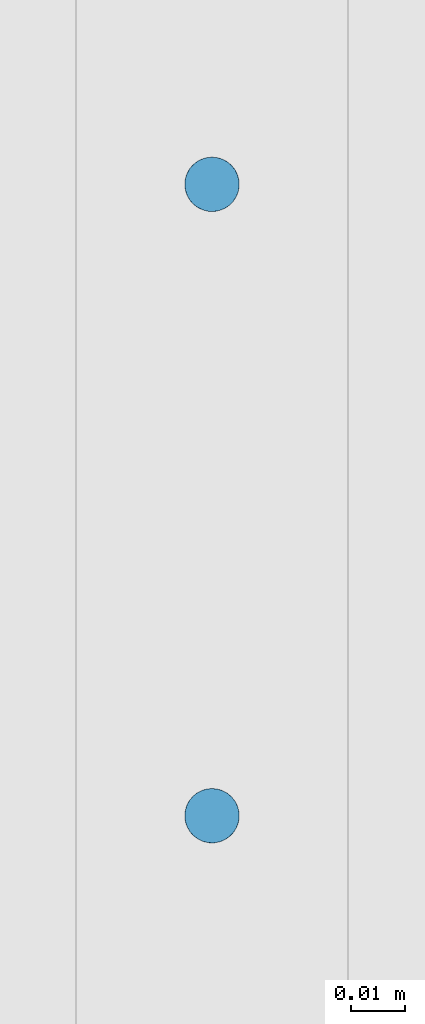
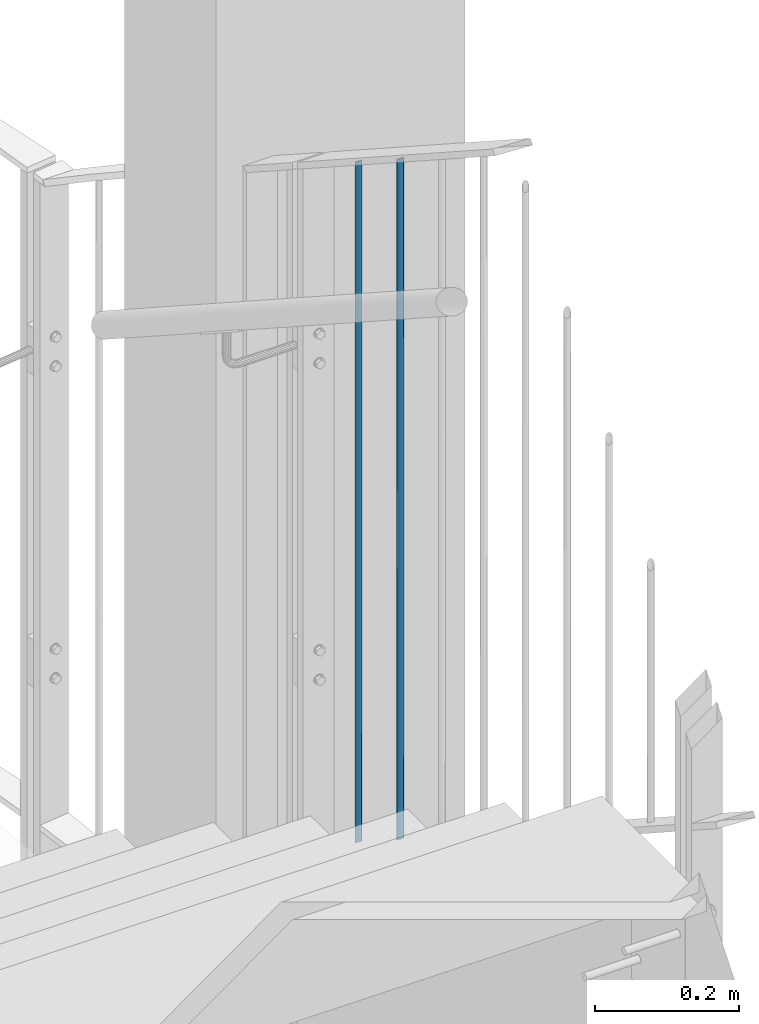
# One storey, part 83 of 296: 2 columns.
"""IFC2X3 building model written with IfcOpenShell, lengths in millimetres."""

from ifc_helpers import new_model, entity, si_unit, converted_unit, frame, origin, origin_with_axes, origin_2d, place, context, project, spatial, circle, extrude, clip, halfspace, material, element, save


model = new_model("IFC2X3")

# Units and contexts
model_context = context("Model", 3, precision=1e-09, world=origin_with_axes())
ifc_project = project(units=[si_unit("LENGTHUNIT", "METRE", prefix="MILLI"), si_unit("AREAUNIT", "SQUARE_METRE"), si_unit("VOLUMEUNIT", "CUBIC_METRE"), converted_unit("PLANEANGLEUNIT", "DEGREE", entity("IfcPlaneAngleMeasure", 0.01745329), si_unit("PLANEANGLEUNIT", "RADIAN"), dimensions=[0, 0, 0, 0, 0, 0, 0])], contexts=[model_context])

# Site, building, storey
site_placement = place(None, origin_with_axes())
site = spatial("IfcSite", under=ifc_project, at=site_placement, Name="TZD-S?d | Treppenhausgel?nder", CompositionType="ELEMENT")
building_placement = place(site_placement, origin_with_axes())
building = spatial("IfcBuilding", under=site, at=building_placement, Name="Struktur 1", CompositionType="ELEMENT")
storey_placement = place(building_placement, origin_with_axes())
storey = spatial("IfcBuildingStorey", under=building, at=storey_placement, Name="Default Storey", CompositionType="ELEMENT", Elevation=0.0)

# Columns
ifc_material = material(Name="S235JR")
column_1_placement = place(None, frame((5894.999, -689.7222223, 7881.22867776), z_axis=(0.0, 0.0, -1.0), x_axis=(0.0, 1.0, 0.0)))
element("IfcColumn", 1, at=column_1_placement, inside=storey, material=ifc_material, Name="-", ObjectType="-", context=model_context, shape_type="Clipping", body=[
    clip(clip(extrude(circle(Radius=5.0, at=origin_2d()), origin(), (0.0, 0.0, -1.0), 1184.934996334), halfspace(frame((4088.445690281, -5894.999, 2633.548342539), z_axis=(0.543608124, 0.0, -0.839339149), x_axis=(0.0, -1.0, 0.0)), True)), halfspace(frame((4615.972905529, -5894.999, 1819.038359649), z_axis=(-0.543608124, 0.0, 0.839339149), x_axis=(0.0, 1.0, 0.0)), True)),
])
column_2_placement = place(None, frame((5894.999, -573.6111112, 7806.027916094), z_axis=(0.0, 0.0, -1.0), x_axis=(0.0, 1.0, 0.0)))
element("IfcColumn", 2, at=column_2_placement, inside=storey, material=ifc_material, Name="-", ObjectType="-", context=model_context, shape_type="Clipping", body=[
    clip(clip(extrude(circle(Radius=5.0, at=origin_2d()), origin(), (0.0, 0.0, -1.0), 1184.934996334), halfspace(frame((3972.334579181, -5894.999, 2558.347580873), z_axis=(0.543608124, 0.0, -0.839339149), x_axis=(0.0, -1.0, 0.0)), True)), halfspace(frame((4499.861794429, -5894.999, 1743.837597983), z_axis=(-0.543608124, 0.0, 0.839339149), x_axis=(0.0, 1.0, 0.0)), True)),
])

save(model, "model.ifc")
